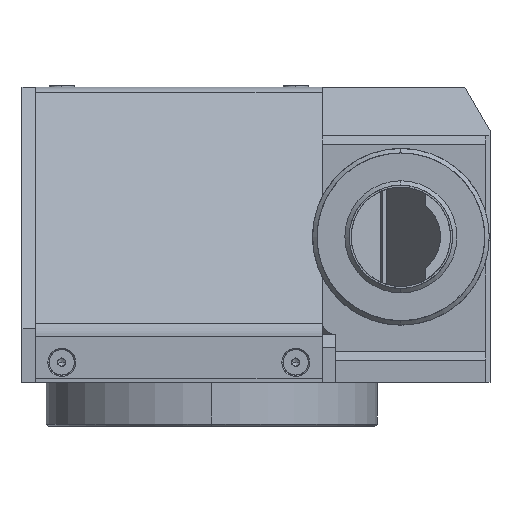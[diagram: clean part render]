
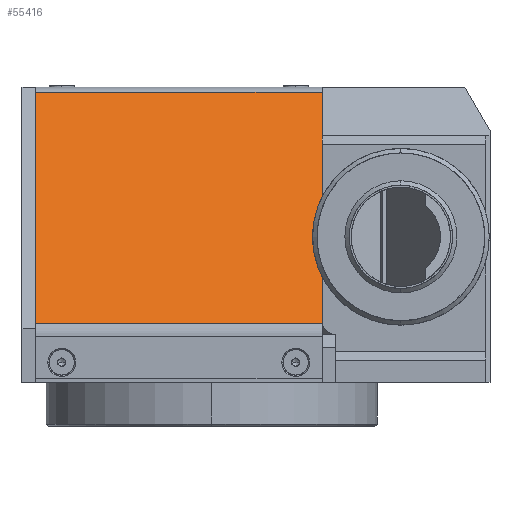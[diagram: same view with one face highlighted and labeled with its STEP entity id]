
A CAD part, left-side view. The second image highlights one B-rep face of the part: STEP entity #55416.
In plain terms, the highlighted free-form (B-spline) face has degree [1, 1] with [2, 2] control points.
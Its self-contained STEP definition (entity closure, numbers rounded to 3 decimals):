
#55416 = ADVANCED_FACE('',(#55417),#55431,.T.);
#55417 = FACE_BOUND('',#55418,.T.);
#55418 = EDGE_LOOP('',(#55419,#55441,#55456,#55471));
#55419 = ORIENTED_EDGE('',*,*,#55420,.T.);
#55420 = EDGE_CURVE('',#55421,#55423,#55425,.T.);
#55421 = VERTEX_POINT('',#55422);
#55422 = CARTESIAN_POINT('',(-33.828,4.,-19.581));
#55423 = VERTEX_POINT('',#55424);
#55424 = CARTESIAN_POINT('',(18.581,4.,32.828));
#55425 = SURFACE_CURVE('',#55426,(#55430),.PCURVE_S1.);
#55426 = LINE('',#55427,#55428);
#55427 = CARTESIAN_POINT('',(-33.828,4.,-19.581));
#55428 = VECTOR('',#55429,1.);
#55429 = DIRECTION('',(0.707,0.,0.707));
#55430 = PCURVE('',#55431,#55436);
#55431 = B_SPLINE_SURFACE_WITH_KNOTS('',1,1,(
    (#55432,#55433)
    ,(#55434,#55435
    )),.UNSPECIFIED.,.F.,.F.,.F.,(2,2),(2,2),(0.,1.),(0.,1.),
  .PIECEWISE_BEZIER_KNOTS.);
#55432 = CARTESIAN_POINT('',(-33.828,4.,-19.581));
#55433 = CARTESIAN_POINT('',(-33.828,69.,-19.581));
#55434 = CARTESIAN_POINT('',(18.581,4.,32.828));
#55435 = CARTESIAN_POINT('',(18.581,69.,32.828));
#55436 = DEFINITIONAL_REPRESENTATION('',(#55437),#55440);
#55437 = B_SPLINE_CURVE_WITH_KNOTS('',1,(#55438,#55439),.UNSPECIFIED.,
  .F.,.F.,(2,2),(0.,74.118),.PIECEWISE_BEZIER_KNOTS.);
#55438 = CARTESIAN_POINT('',(0.,0.));
#55439 = CARTESIAN_POINT('',(1.,0.));
#55440 = ( GEOMETRIC_REPRESENTATION_CONTEXT(2) 
PARAMETRIC_REPRESENTATION_CONTEXT() REPRESENTATION_CONTEXT('',''
  ) );
#55441 = ORIENTED_EDGE('',*,*,#55442,.T.);
#55442 = EDGE_CURVE('',#55423,#55443,#55445,.T.);
#55443 = VERTEX_POINT('',#55444);
#55444 = CARTESIAN_POINT('',(18.581,69.,32.828));
#55445 = SURFACE_CURVE('',#55446,(#55450),.PCURVE_S1.);
#55446 = LINE('',#55447,#55448);
#55447 = CARTESIAN_POINT('',(18.581,4.,32.828));
#55448 = VECTOR('',#55449,1.);
#55449 = DIRECTION('',(0.,1.,0.));
#55450 = PCURVE('',#55431,#55451);
#55451 = DEFINITIONAL_REPRESENTATION('',(#55452),#55455);
#55452 = B_SPLINE_CURVE_WITH_KNOTS('',1,(#55453,#55454),.UNSPECIFIED.,
  .F.,.F.,(2,2),(0.,65.),.PIECEWISE_BEZIER_KNOTS.);
#55453 = CARTESIAN_POINT('',(1.,0.));
#55454 = CARTESIAN_POINT('',(1.,1.));
#55455 = ( GEOMETRIC_REPRESENTATION_CONTEXT(2) 
PARAMETRIC_REPRESENTATION_CONTEXT() REPRESENTATION_CONTEXT('',''
  ) );
#55456 = ORIENTED_EDGE('',*,*,#55457,.T.);
#55457 = EDGE_CURVE('',#55443,#55458,#55460,.T.);
#55458 = VERTEX_POINT('',#55459);
#55459 = CARTESIAN_POINT('',(-33.828,69.,-19.581));
#55460 = SURFACE_CURVE('',#55461,(#55465),.PCURVE_S1.);
#55461 = LINE('',#55462,#55463);
#55462 = CARTESIAN_POINT('',(18.581,69.,32.828));
#55463 = VECTOR('',#55464,1.);
#55464 = DIRECTION('',(-0.707,0.,-0.707));
#55465 = PCURVE('',#55431,#55466);
#55466 = DEFINITIONAL_REPRESENTATION('',(#55467),#55470);
#55467 = B_SPLINE_CURVE_WITH_KNOTS('',1,(#55468,#55469),.UNSPECIFIED.,
  .F.,.F.,(2,2),(0.,74.118),.PIECEWISE_BEZIER_KNOTS.);
#55468 = CARTESIAN_POINT('',(1.,1.));
#55469 = CARTESIAN_POINT('',(0.,1.));
#55470 = ( GEOMETRIC_REPRESENTATION_CONTEXT(2) 
PARAMETRIC_REPRESENTATION_CONTEXT() REPRESENTATION_CONTEXT('',''
  ) );
#55471 = ORIENTED_EDGE('',*,*,#55472,.T.);
#55472 = EDGE_CURVE('',#55458,#55421,#55473,.T.);
#55473 = SURFACE_CURVE('',#55474,(#55478),.PCURVE_S1.);
#55474 = LINE('',#55475,#55476);
#55475 = CARTESIAN_POINT('',(-33.828,69.,-19.581));
#55476 = VECTOR('',#55477,1.);
#55477 = DIRECTION('',(0.,-1.,0.));
#55478 = PCURVE('',#55431,#55479);
#55479 = DEFINITIONAL_REPRESENTATION('',(#55480),#55483);
#55480 = B_SPLINE_CURVE_WITH_KNOTS('',1,(#55481,#55482),.UNSPECIFIED.,
  .F.,.F.,(2,2),(0.,65.),.PIECEWISE_BEZIER_KNOTS.);
#55481 = CARTESIAN_POINT('',(0.,1.));
#55482 = CARTESIAN_POINT('',(0.,0.));
#55483 = ( GEOMETRIC_REPRESENTATION_CONTEXT(2) 
PARAMETRIC_REPRESENTATION_CONTEXT() REPRESENTATION_CONTEXT('',''
  ) );
